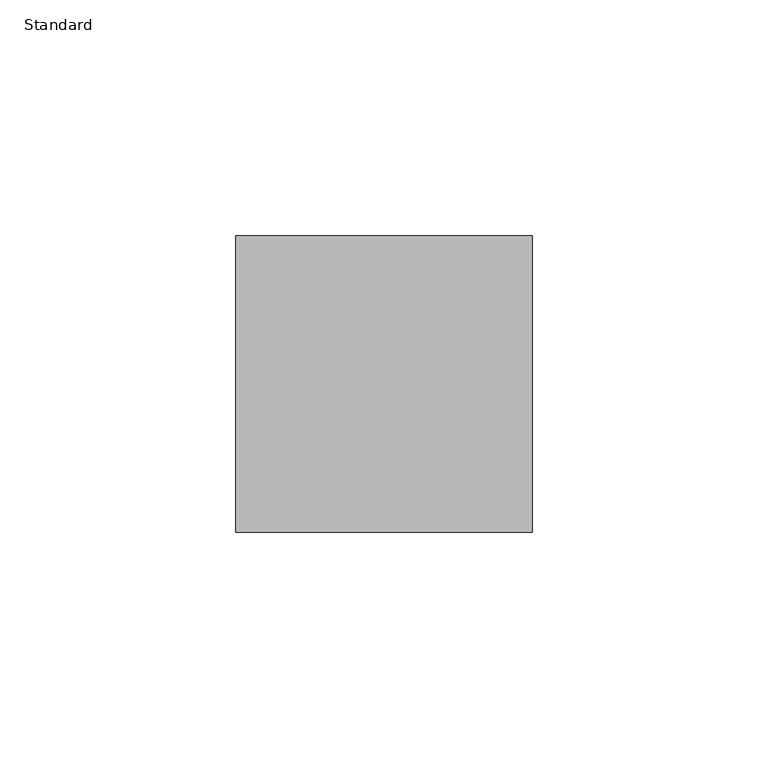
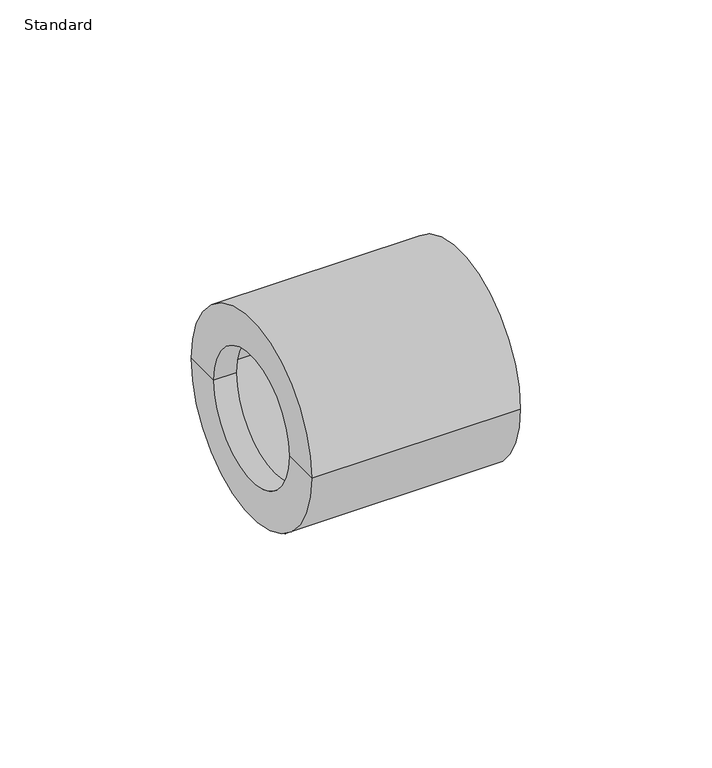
"""IFC4 building model written with IfcOpenShell, lengths in millimetres: pipe fitting geometry, Durapipe_PipeFitting_PVC_ReducingBush : Standard."""

import ifcopenshell
import ifcopenshell.guid

model = None  # the IFC model being written
_history = None  # IfcOwnerHistory: only IFC2X3 demands one
_inside = {}  # id of a spatial element -> (the spatial element, [elements in it])
_under = {}  # id of a project, library or spatial element -> (it, [spatial elements below it])
_declared = {}  # id of a project -> (the project, [libraries it declares])
_typed = {}  # id of a type object -> (the type object, [elements of that type])
_made_of = {}  # id of a material, layer set ... -> (it, [elements and type objects made of it])


def new_model(schema):
    """Start an empty IFC model of exactly this schema.

    Asked for "IFC4X3", IfcOpenShell would pick the latest addendum, in which some entities
    have other attributes; the version numbers below select the first issue.
    IFC2X3 requires an IfcOwnerHistory on every rooted entity: one is made here for all.
    """
    global model, _history
    if schema == "IFC4X3":
        model = ifcopenshell.file(schema_version=(4, 3, 0, 0))
    else:
        model = ifcopenshell.file(schema=schema)
    _inside.clear()
    _under.clear()
    _declared.clear()
    _typed.clear()
    _made_of.clear()
    _history = None
    if model.schema == "IFC2X3":
        org = make("IfcOrganization", Name="unknown")
        user = make(
            "IfcPersonAndOrganization",
            ThePerson=make("IfcPerson", FamilyName="unknown"),
            TheOrganization=org,
        )
        app = make(
            "IfcApplication",
            ApplicationDeveloper=org,
            Version="unknown",
            ApplicationFullName="unknown",
            ApplicationIdentifier="unknown",
        )
        _history = make(
            "IfcOwnerHistory",
            OwningUser=user,
            OwningApplication=app,
            ChangeAction="ADDED",
            CreationDate=0,
        )
    return model


def make(cls, **values):
    """One entity of the class cls with the attributes given. An attribute that is None is left unset."""
    return model.create_entity(
        cls, **{name: value for name, value in values.items() if value is not None}
    )


def rooted(cls, **values):
    """An entity with a GlobalId (a new one), such as an element, a storey or a relation."""
    return make(cls, GlobalId=ifcopenshell.guid.new(), OwnerHistory=_history, **values)


def si_unit(unit_type, name, prefix=None):
    """IfcSIUnit, for example si_unit("LENGTHUNIT", "METRE", prefix="MILLI")."""
    return make("IfcSIUnit", UnitType=unit_type, Prefix=prefix, Name=name)


def assignment(units):
    """IfcUnitAssignment: the units of a project."""
    return None if units is None else make("IfcUnitAssignment", Units=units)


def point(xyz):
    """IfcCartesianPoint."""
    return None if xyz is None else make("IfcCartesianPoint", Coordinates=xyz)


def direction(xyz):
    """IfcDirection."""
    return None if xyz is None else make("IfcDirection", DirectionRatios=xyz)


def frame(location, z_axis=None, x_axis=None):
    """IfcAxis2Placement3D, a coordinate frame: its origin and axes. An axis left out is left unset."""
    return make(
        "IfcAxis2Placement3D",
        Location=point(location),
        Axis=direction(z_axis),
        RefDirection=direction(x_axis),
    )


def origin():
    """The frame at (0, 0, 0) with its axes left unset."""
    return frame((0.0, 0.0, 0.0))


def place(relative_to, where):
    """IfcLocalPlacement: puts the frame where relative to a parent placement (None: the world)."""
    return make(
        "IfcLocalPlacement", PlacementRelTo=relative_to, RelativePlacement=where
    )


def context(
    kind, dimensions, precision=None, world=None, true_north=None, identifier=None
):
    """IfcGeometricRepresentationContext, for example the 3D "Model" context."""
    return make(
        "IfcGeometricRepresentationContext",
        ContextIdentifier=identifier,
        ContextType=kind,
        CoordinateSpaceDimension=dimensions,
        Precision=precision,
        WorldCoordinateSystem=world,
        TrueNorth=true_north,
    )


def project(units=None, contexts=None):
    """IfcProject with its units and contexts."""
    return rooted(
        "IfcProject",
        Name="project",
        RepresentationContexts=contexts,
        UnitsInContext=assignment(units),
    )


def spatial(cls, under=None, at=None, **own):
    """A site, building, storey or space (cls), placed at a placement, below another one or the project."""
    s = rooted(cls, ObjectPlacement=at, **own)
    if under is not None:
        _under.setdefault(under.id(), (under, []))[1].append(s)
    return s


def polyline(points):
    """IfcPolyline through the points."""
    return make("IfcPolyline", Points=[point(p) for p in points])


def circle_curve(where, radius):
    """IfcCircle in the frame where."""
    return make("IfcCircle", Position=where, Radius=radius)


def shape(context_of_items, identifier, shape_type, items):
    """IfcShapeRepresentation: the items that make up one representation, for example the "Body"."""
    return make(
        "IfcShapeRepresentation",
        ContextOfItems=context_of_items,
        RepresentationIdentifier=identifier,
        RepresentationType=shape_type,
        Items=items,
    )


def source(mapping_origin, context_of_items, identifier, shape_type, items):
    """IfcRepresentationMap: a shape defined once, which mapped items show again and again."""
    return make(
        "IfcRepresentationMap",
        MappingOrigin=mapping_origin,
        MappedRepresentation=shape(context_of_items, identifier, shape_type, items),
    )


def transform(
    local_origin,
    x_axis=None,
    y_axis=None,
    z_axis=None,
    scale=None,
    scale2=None,
    scale3=None,
    uniform=True,
):
    """IfcCartesianTransformationOperator3D, or its non-uniform kind. x_axis, y_axis, z_axis: its Axis1, 2, 3."""
    if uniform:
        return make(
            "IfcCartesianTransformationOperator3D",
            Axis1=direction(x_axis),
            Axis2=direction(y_axis),
            LocalOrigin=point(local_origin),
            Scale=scale,
            Axis3=direction(z_axis),
        )
    return make(
        "IfcCartesianTransformationOperator3DnonUniform",
        Axis1=direction(x_axis),
        Axis2=direction(y_axis),
        LocalOrigin=point(local_origin),
        Scale=scale,
        Axis3=direction(z_axis),
        Scale2=scale2,
        Scale3=scale3,
    )


def mapped(mapping_source, mapping_target):
    """IfcMappedItem: shows the shape of a source again, moved by a transform."""
    return make(
        "IfcMappedItem", MappingSource=mapping_source, MappingTarget=mapping_target
    )


def made_of(thing, what):
    """Note that an element or type object is made of a material, layer set ...; save() writes the relation."""
    if what is not None:
        _made_of.setdefault(what.id(), (what, []))[1].append(thing)
    return thing


def element(
    cls,
    number,
    at=None,
    inside=None,
    cuts=None,
    type_object=None,
    material=None,
    context=None,
    identifier="Body",
    shape_type=None,
    held_by="IfcProductDefinitionShape",
    body=None,
    shapes=None,
    **own,
):
    """One element of the class cls, such as IfcWall. Its Tag is "e" and its number.

    at: its placement. inside: the storey or other place that contains it. cuts: it is an
    opening in that element (IfcRelVoidsElement). A single representation is given by context,
    identifier, shape_type and body (its items); several are given by shapes. held_by: the class
    of the entity that holds the representations. save() writes the other relations.
    """
    e = rooted(cls, Tag="e%d" % number, ObjectPlacement=at, **own)
    if body is not None:
        shapes = [shape(context, identifier, shape_type, body)]
    if shapes is not None:
        e.Representation = make(held_by, Representations=shapes)
    if inside is not None:
        _inside.setdefault(inside.id(), (inside, []))[1].append(e)
    if cuts is not None:
        rooted(
            "IfcRelVoidsElement", RelatingBuildingElement=cuts, RelatedOpeningElement=e
        )
    if type_object is not None:
        _typed.setdefault(type_object.id(), (type_object, []))[1].append(e)
    return made_of(e, material)


def aggregate(whole, parts):
    """IfcRelAggregates: a whole, such as a stair, and the parts it consists of."""
    return rooted("IfcRelAggregates", RelatingObject=whole, RelatedObjects=parts)


def save(model, path):
    """Write the relations noted so far, then the file.

    IfcRelAggregates (storeys below a building ...), IfcRelContainedInSpatialStructure (elements
    in a storey), IfcRelDefinesByType, IfcRelAssociatesMaterial and IfcRelDeclares: one each for
    every whole, place, type object, material and project.
    """
    for whole, parts in _under.values():
        aggregate(whole, parts)
    for where, things in _inside.values():
        rooted(
            "IfcRelContainedInSpatialStructure",
            RelatedElements=things,
            RelatingStructure=where,
        )
    for kind, things in _typed.values():
        rooted("IfcRelDefinesByType", RelatedObjects=things, RelatingType=kind)
    for what, things in _made_of.values():
        rooted("IfcRelAssociatesMaterial", RelatedObjects=things, RelatingMaterial=what)
    for by, libraries in _declared.values():
        rooted("IfcRelDeclares", RelatingContext=by, RelatedDefinitions=libraries)
    model.write(path)


def plane_surface(at):
    """IfcPlane: the flat surface through the origin of the frame at, square to its z axis."""
    return make("IfcPlane", Position=at)


def cylinder_surface(at, radius):
    """IfcCylindricalSurface: all points at the distance radius from the z axis of the frame at."""
    return make("IfcCylindricalSurface", Position=at, Radius=radius)


def revolved_surface(curve, axis_point, axis_direction):
    """IfcSurfaceOfRevolution: the curve turned about the line through axis_point along axis_direction."""
    return make(
        "IfcSurfaceOfRevolution",
        SweptCurve=make("IfcArbitraryOpenProfileDef", ProfileType="CURVE", Curve=curve),
        AxisPosition=make("IfcAxis1Placement", Location=point(axis_point), Axis=direction(axis_direction)),
    )


def advanced_brep(points, edges, surfaces, faces):
    """IfcAdvancedBrep: a solid bounded by faces that lie on surfaces and meet in shared edges.

    An edge is (start, end): straight between two places in points (the first is 0);
    or (start, end, curve); or (start, end, curve, False) where it runs against its curve.
    A face is (place in surfaces, loops), or (place, loops, False) where it looks against
    its surface's normal. A loop lists edges by number (the first is 1), with a minus sign
    where the edge is run from its end to its start. The first loop is the outer one.
    """
    corners = [point(p) for p in points]
    vertices = [make("IfcVertexPoint", VertexGeometry=c) for c in corners]
    made = []
    for start, end, *more in edges:
        made.append(
            make(
                "IfcEdgeCurve",
                EdgeStart=vertices[start],
                EdgeEnd=vertices[end],
                EdgeGeometry=more[0] if more else make("IfcPolyline", Points=[corners[start], corners[end]]),
                SameSense=more[1] if len(more) > 1 else True,
            )
        )
    hull = []
    for where, loops, *sense in faces:
        bounds = []
        for j, loop in enumerate(loops):
            ring = [make("IfcOrientedEdge", EdgeElement=made[abs(k) - 1], Orientation=k > 0) for k in loop]
            bounds.append(
                make(
                    "IfcFaceOuterBound" if j == 0 else "IfcFaceBound",
                    Bound=make("IfcEdgeLoop", EdgeList=ring),
                    Orientation=True,
                )
            )
        hull.append(make("IfcAdvancedFace", Bounds=bounds, FaceSurface=surfaces[where], SameSense=sense[0] if sense else True))
    return make("IfcAdvancedBrep", Outer=make("IfcClosedShell", CfsFaces=hull))


def standard_609f0164(model_context):
    return source(origin(), model_context, "Body", "AdvancedBrep", [
        advanced_brep(
        [(-7.0, -20.0, 0.0), (-7.0, 20.0, 0.0), (-7.0, 31.5, 0.0), (-7.0, -31.5, 0.0), (0.0, -20.0, 0.0), (0.0, 20.0, 0.0), (0.0, -25.0, 0.0), (0.0, 25.0, 0.0), (56.0, -25.0, 0.0), (56.0, 25.0, 0.0), (56.0, -31.5, 0.0), (56.0, 31.5, 0.0)],
        [
            (0, 1, circle_curve(frame((-7.0, 0.0, 0.0), z_axis=(1.0, 0.0, 0.0), x_axis=(0.0, 1.0, 0.0)), 20.0)),
            (1, 2),
            (2, 3, circle_curve(frame((-7.0, 0.0, 0.0), z_axis=(-1.0, 0.0, 0.0), x_axis=(0.0, 1.0, 0.0)), 31.5)),
            (3, 0),
            (1, 0, circle_curve(frame((-7.0, 0.0, 0.0), z_axis=(1.0, 0.0, 0.0), x_axis=(0.0, 1.0, 0.0)), 20.0)),
            (3, 2, circle_curve(frame((-7.0, 0.0, 0.0), z_axis=(-1.0, 0.0, 0.0), x_axis=(0.0, 1.0, 0.0)), 31.5)),
            (4, 5, circle_curve(frame((0.0, 0.0, 0.0), z_axis=(1.0, 0.0, 0.0), x_axis=(0.0, 1.0, 0.0)), 20.0)),
            (5, 1),
            (0, 4),
            (5, 4, circle_curve(frame((0.0, 0.0, 0.0), z_axis=(1.0, 0.0, 0.0), x_axis=(0.0, 1.0, 0.0)), 20.0)),
            (6, 7, circle_curve(frame((0.0, 0.0, 0.0), z_axis=(1.0, 0.0, 0.0), x_axis=(0.0, 1.0, 0.0)), 25.0)),
            (7, 5),
            (4, 6),
            (7, 6, circle_curve(frame((0.0, 0.0, 0.0), z_axis=(1.0, 0.0, 0.0), x_axis=(0.0, 1.0, 0.0)), 25.0)),
            (8, 9, circle_curve(frame((56.0, 0.0, 0.0), z_axis=(1.0, 0.0, 0.0), x_axis=(0.0, 1.0, 0.0)), 25.0)),
            (9, 7),
            (6, 8),
            (9, 8, circle_curve(frame((56.0, 0.0, 0.0), z_axis=(1.0, 0.0, 0.0), x_axis=(0.0, 1.0, 0.0)), 25.0)),
            (10, 11, circle_curve(frame((56.0, 0.0, 0.0), z_axis=(1.0, 0.0, 0.0), x_axis=(0.0, 1.0, 0.0)), 31.5)),
            (11, 9),
            (8, 10),
            (11, 10, circle_curve(frame((56.0, 0.0, 0.0), z_axis=(1.0, 0.0, 0.0), x_axis=(0.0, 1.0, 0.0)), 31.5)),
            (2, 11),
            (10, 3),
        ],
        [
            plane_surface(frame((-7.0, 0.0, 0.0), z_axis=(-1.0, 0.0, 0.0), x_axis=(0.0, 1.0, 0.0))),
            revolved_surface(polyline([(-7.0, 20.0, 0.0), (0.0, 20.0, 0.0)]), (2042.0, 0.0, 0.0), (-1.0, 0.0, 0.0)),
            plane_surface(frame((0.0, 0.0, 0.0), z_axis=(1.0, 0.0, 0.0), x_axis=(0.0, 1.0, 0.0))),
            revolved_surface(polyline([(0.0, 25.0, 0.0), (56.0, 25.0, 0.0)]), (2042.0, 0.0, 0.0), (-1.0, 0.0, 0.0)),
            plane_surface(frame((56.0, 0.0, 0.0), z_axis=(1.0, 0.0, 0.0), x_axis=(0.0, 1.0, 0.0))),
            cylinder_surface(frame((2042.0, 0.0, 0.0), z_axis=(-1.0, 0.0, 0.0), x_axis=(0.0, 1.0, 0.0)), 31.5),
        ],
        [
            (0, [[1, 2, 3, 4]]),
            (0, [[5, -4, 6, -2]]),
            (1, [[7, 8, -1, 9]]),
            (1, [[10, -9, -5, -8]]),
            (2, [[11, 12, -7, 13]]),
            (2, [[14, -13, -10, -12]]),
            (3, [[15, 16, -11, 17]]),
            (3, [[18, -17, -14, -16]]),
            (4, [[19, 20, -15, 21]]),
            (4, [[22, -21, -18, -20]]),
            (5, [[-3, 23, -19, 24]]),
            (5, [[-6, -24, -22, -23]]),
        ],
    ),
    ])


if __name__ == "__main__":
    model = new_model("IFC4")
    model_context = context("Model", 3, world=origin())
    ifc_project = project(units=[si_unit("LENGTHUNIT", "METRE", prefix="MILLI")], contexts=[model_context])
    site = spatial("IfcSite", under=ifc_project)
    building = spatial("IfcBuilding", under=site)
    placement = place(None, origin())
    standard_shape = standard_609f0164(model_context)
    element("IfcPipeFitting", 1, ObjectType="Durapipe_PipeFitting_PVC_ReducingBush : Standard", at=placement, inside=building, context=model_context, shape_type="MappedRepresentation", body=[
        mapped(standard_shape, transform((0.0, 0.0, 0.0), x_axis=(1.0, 0.0, 0.0), y_axis=(0.0, 1.0, 0.0), z_axis=(0.0, 0.0, 1.0))),
    ])
    save(model, "model.ifc")
